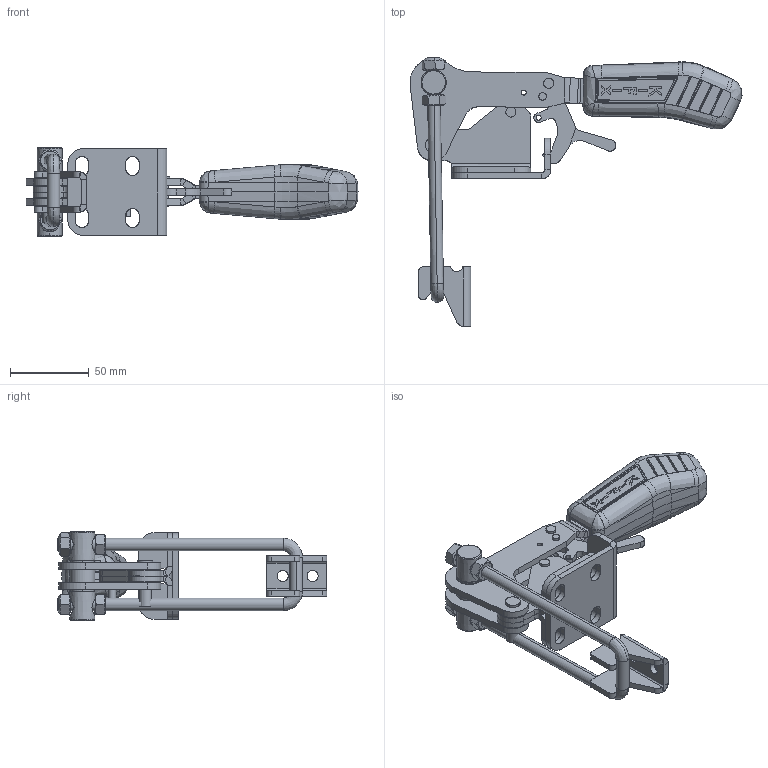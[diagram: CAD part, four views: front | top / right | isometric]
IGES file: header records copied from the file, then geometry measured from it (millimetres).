
Start section: SolidWorks IGES file using analytic representation for surfaces
Global section: file name: C:\Projetos\Grampos\KF-263\KF-263 TR\KF-263 TR.IGS; native system: SolidWorks 2018; preprocessor: SolidWorks 2018; author: Ricardo; date: 180612.142816; units: millimetre
Bounding box: 210.58 x 170.96 x 56.5 mm (x, y, z)
Surface area: 87446.3 mm2 (no closed solid volume)
Topology: 0 solids, 0 shells, 795 faces, 9727 edges, 9705 vertices
Faces by surface type: bspline 478, revolution 317
